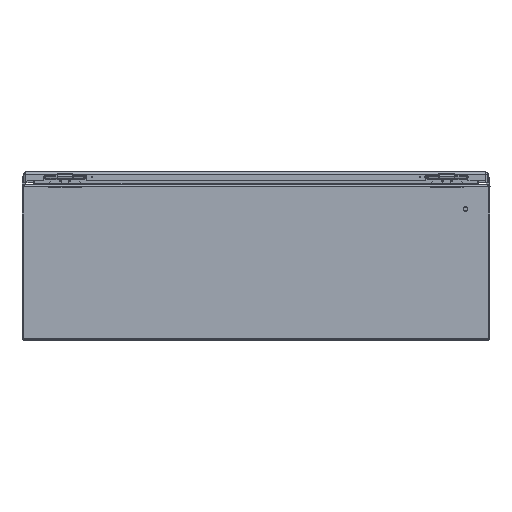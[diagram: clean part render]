
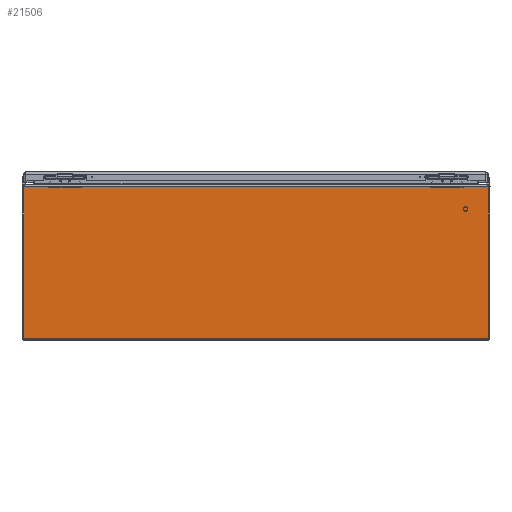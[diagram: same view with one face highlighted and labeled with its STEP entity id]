
A CAD part, left-side view. The second image highlights one B-rep face of the part: STEP entity #21506.
In plain terms, the highlighted planar face has unit normal (-1, 0, 0).
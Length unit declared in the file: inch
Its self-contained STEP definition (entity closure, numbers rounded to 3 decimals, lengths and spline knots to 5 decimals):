
#18758 = CARTESIAN_POINT ( 'NONE',  ( -15., 165., 9.838 ) ) ;
#18766 = PLANE ( 'NONE',  #23253 ) ;
#18777 = DIRECTION ( 'NONE',  ( -1., 0., 0. ) ) ;
#18778 = DIRECTION ( 'NONE',  ( 0., 0., -1. ) ) ;
#21175 = EDGE_LOOP ( 'NONE', ( #32729, #32730, #32731, #32732 ) ) ;
#21506 = ADVANCED_FACE ( 'NONE', ( #29215 ), #18766, .T. ) ;
#23253 = AXIS2_PLACEMENT_3D ( 'NONE', #18758, #18777, #18778 ) ;
#25437 = CARTESIAN_POINT ( 'NONE',  ( -15., 14.92093, 9.838 ) ) ;
#25441 = DIRECTION ( 'NONE',  ( 0., 0., -1. ) ) ;
#25630 = VECTOR ( 'NONE', #25441, 39.37008 ) ;
#25638 = LINE ( 'NONE', #25437, #25630 ) ;
#29215 = FACE_OUTER_BOUND ( 'NONE', #21175, .T. ) ;
#30993 = EDGE_CURVE ( 'NONE', #41185, #41183, #35651, .T. ) ;
#31018 = EDGE_CURVE ( 'NONE', #41153, #41183, #35688, .T. ) ;
#31023 = EDGE_CURVE ( 'NONE', #41151, #41185, #35699, .T. ) ;
#31534 = EDGE_CURVE ( 'NONE', #41153, #41151, #25638, .T. ) ;
#32729 = ORIENTED_EDGE ( 'NONE', *, *, #30993, .T. ) ;
#32730 = ORIENTED_EDGE ( 'NONE', *, *, #31018, .F. ) ;
#32731 = ORIENTED_EDGE ( 'NONE', *, *, #31534, .T. ) ;
#32732 = ORIENTED_EDGE ( 'NONE', *, *, #31023, .T. ) ;
#35122 = CARTESIAN_POINT ( 'NONE',  ( -15., 14.92093, 0.132 ) ) ;
#35124 = CARTESIAN_POINT ( 'NONE',  ( -15., 14.92093, 9.838 ) ) ;
#35154 = CARTESIAN_POINT ( 'NONE',  ( -15., -14.92093, 9.838 ) ) ;
#35156 = CARTESIAN_POINT ( 'NONE',  ( -15., -14.92093, 0.132 ) ) ;
#35293 = CARTESIAN_POINT ( 'NONE',  ( -15., 165., 9.838 ) ) ;
#35294 = DIRECTION ( 'NONE',  ( 0., -1., 0. ) ) ;
#35295 = CARTESIAN_POINT ( 'NONE',  ( -15., 165., 0.132 ) ) ;
#35306 = DIRECTION ( 'NONE',  ( 0., -1., 0. ) ) ;
#35645 = VECTOR ( 'NONE', #36400, 39.37008 ) ;
#35651 = LINE ( 'NONE', #36380, #35645 ) ;
#35688 = LINE ( 'NONE', #35293, #35689 ) ;
#35689 = VECTOR ( 'NONE', #35294, 39.37008 ) ;
#35699 = LINE ( 'NONE', #35295, #35701 ) ;
#35701 = VECTOR ( 'NONE', #35306, 39.37008 ) ;
#36380 = CARTESIAN_POINT ( 'NONE',  ( -15., -14.92093, 9.838 ) ) ;
#36400 = DIRECTION ( 'NONE',  ( 0., 0., 1. ) ) ;
#41151 = VERTEX_POINT ( 'NONE', #35122 ) ;
#41153 = VERTEX_POINT ( 'NONE', #35124 ) ;
#41183 = VERTEX_POINT ( 'NONE', #35154 ) ;
#41185 = VERTEX_POINT ( 'NONE', #35156 ) ;
